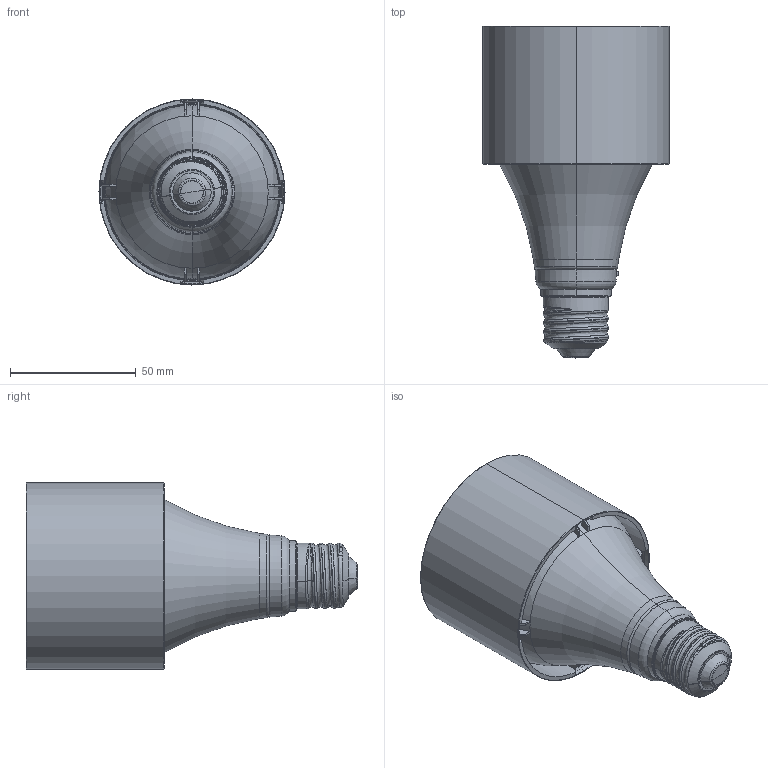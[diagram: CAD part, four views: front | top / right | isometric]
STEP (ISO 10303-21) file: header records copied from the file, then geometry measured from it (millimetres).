
FILE_DESCRIPTION(('FreeCAD Model'),'2;1');
FILE_NAME('Open CASCADE Shape Model','2024-08-30T10:04:15',( 'Lukas Balthasar Pank'),('Astera LED Technology GmbH'), 'Open CASCADE STEP processor 7.6','FreeCAD','Unknown');
FILE_SCHEMA(('AUTOMOTIVE_DESIGN { 1 0 10303 214 1 1 1 1 }'));
Length unit declared in the file: millimetre
Products named in the file (20): FP7+FP7-LRF+FP7-LLS+FP7-LSN_LunaBulb+LunaReflector+LunaLens+LunaSnoot_
3D-STEP; LunaBulb; Lamp cup-L; inner diffuser holder; release button; spring; LunaBulb_InnerDome; LunaBulb_E27; FP7-LRF+FP7-LLS+FP7-LSN; LunaReflector; Reflector White Look; reflector cup-; LunaLens; LunaLens-ring; Diffuser Lens; LunaSnoot
Assembly tree (21 placements, depth 4):
  FP7+FP7-LRF+FP7-LLS+FP7-LSN_LunaBulb+LunaReflector+LunaLens+LunaSnoot_
3D-STEP
    LunaBulb
      Lamp cup-L
      inner diffuser holder
      release button
      spring
        spring
        spring
      spring
        spring
        spring
    LunaBulb_InnerDome
    LunaBulb_E27
    FP7-LRF+FP7-LLS+FP7-LSN
      LunaReflector
        Reflector White Look
        reflector cup-
      LunaLens
        LunaLens-ring
        Diffuser Lens
      LunaSnoot
      LunaReflector
Bounding box: 74 x 132 x 74 mm (x, y, z)
Volume: 61867.9 mm3; surface area: 94928.3 mm2
Topology: 11 solids, 15 shells, 5312 faces, 14453 edges, 9551 vertices
Faces by surface type: bspline 2573, plane 1498, cylinder 957, cone 140, torus 100, sphere 34, revolution 10
Entity records: 226310 total; most frequent: CARTESIAN_POINT 114573, ORIENTED_EDGE 28870, EDGE_CURVE 14437, DIRECTION 13353, VERTEX_POINT 9543, B_SPLINE_CURVE_WITH_KNOTS 8865, FACE_BOUND 5708, EDGE_LOOP 5708
